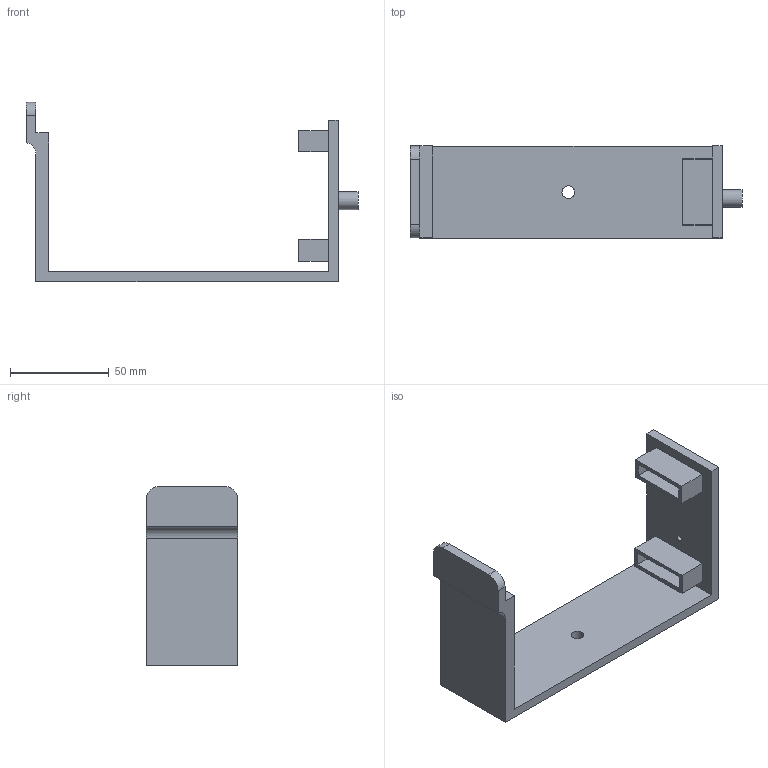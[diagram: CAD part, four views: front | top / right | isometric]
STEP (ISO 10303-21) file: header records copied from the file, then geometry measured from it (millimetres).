
FILE_DESCRIPTION(('STEP AP242 Edition 2','STEP AP242 Edition 2''CAx-IF Rec.Pracs.---Representation and Presentation of Product Manufacturing Information (PMI)---4.0---2014-10-13','STEP AP242 Edition 2''CAx-IF Rec.Pracs.---Representation and Presentation of Product Manufacturing Information (PMI)---4.0---2014-10-13''CAx-IF Rec.Pracs.---3D Tessellated Geometry---0.4---2014-09-14','STEP AP242 Edition 2''CAx-IF Rec.Pracs.---Representation and Presentation of Product Manufacturing Information (PMI)---4.0---2014-10-13''CAx-IF Rec.Pracs.---3D Tessellated Geometry---0.4---2014-09-14''2;1','STEP AP242 Edition 2''CAx-IF Rec.Pracs.---Representation and Presentation of Product Manufacturing Information (PMI)---4.0---2014-10-13''CAx-IF Rec.Pracs.---3D Tessellated Geometry---0.4---2014-09-14''2;1''CAx-IF Rec.Pracs.---User Defined Attributes---1.5---2016-08-15'),'2;1');
FILE_NAME('/vol/tmp/translate-4500610375692572013/Assembly 1 - Part 4.step','2026-02-26T04:21:28',(''),(''),'ST-DEVELOPER v20','ONSHAPE BY PTC INC, 1.211',' ');
FILE_SCHEMA(('AP242_MANAGED_MODEL_BASED_3D_ENGINEERING_MIM_LF { 1 0 10303 442 3 1 4 }'));
Length unit declared in the file: metre
Products named in the file (1): Part 4
Bounding box: 168.11 x 46.57 x 90.79 mm (x, y, z)
Volume: 82831.7 mm3; surface area: 38709.9 mm2
Topology: 1 solids, 1 shells, 39 faces, 102 edges, 68 vertices
Faces by surface type: plane 32, cylinder 7
Full cylindrical faces by diameter (mm): 3 x2, 6.35 x1, 9 x1
Entity records: 1212 total; most frequent: CARTESIAN_POINT 206, ORIENTED_EDGE 196, DIRECTION 192, EDGE_CURVE 98, LINE 84, VECTOR 84, VERTEX_POINT 68, EDGE_LOOP 56
